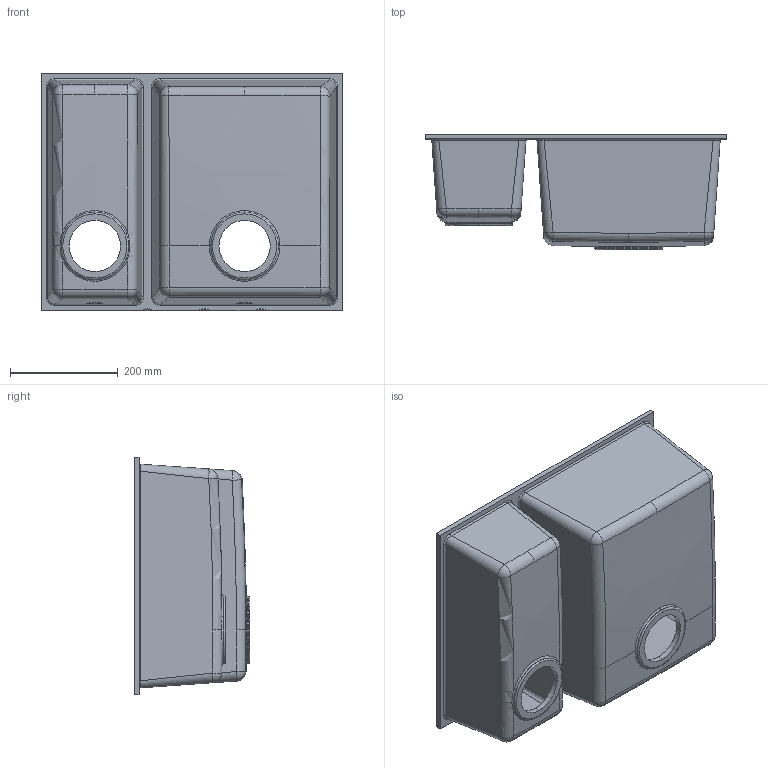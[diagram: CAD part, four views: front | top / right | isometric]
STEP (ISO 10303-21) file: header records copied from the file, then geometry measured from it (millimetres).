
FILE_DESCRIPTION (( 'STEP AP203' ), '1' );
FILE_NAME ('Q150UM.STEP', '2018-01-29T13:48:01', ( '' ), ( '' ), 'SwSTEP 2.0', 'SolidWorks 2013', '' );
FILE_SCHEMA (( 'CONFIG_CONTROL_DESIGN' ));
Length unit declared in the file: millimetre
Products named in the file (1): Q150UM
Bounding box: 559.61 x 214 x 439.61 mm (x, y, z)
Volume: 5096587.9 mm3; surface area: 1277889.8 mm2
Topology: 1 solids, 1 shells, 171 faces, 391 edges, 224 vertices
Faces by surface type: torus 41, bspline 36, cylinder 32, plane 30, sphere 24, cone 8
Entity records: 8297 total; most frequent: CARTESIAN_POINT 4578, ORIENTED_EDGE 782, DIRECTION 768, EDGE_CURVE 391, AXIS2_PLACEMENT_3D 342, VERTEX_POINT 224, CIRCLE 206, EDGE_LOOP 181
